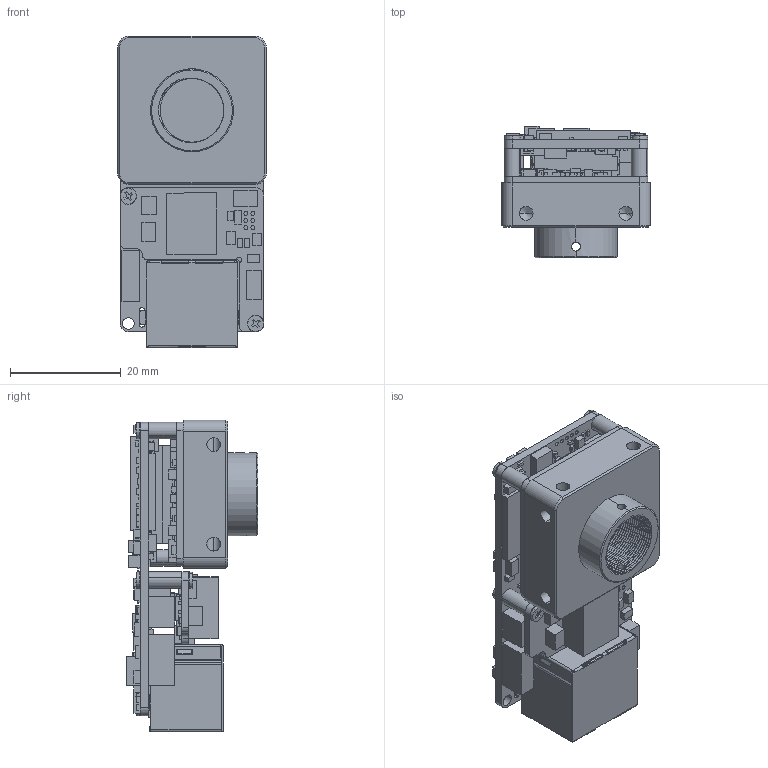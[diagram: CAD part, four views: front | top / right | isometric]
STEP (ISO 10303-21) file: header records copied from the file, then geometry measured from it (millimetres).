
FILE_DESCRIPTION (( 'STEP AP203' ), '1' );
FILE_NAME ('HS-P-M12.STEP', '2023-06-17T09:21:33', ( '' ), ( '' ), 'SwSTEP 2.0', 'SolidWorks 2022', '' );
FILE_SCHEMA (( 'CONFIG_CONTROL_DESIGN' ));
Length unit declared in the file: millimetre
Products named in the file (8): PS178-003; S180001-009; GB_CROSS_SCREWS_TYPE135 M2X5-N_GB_CROSS_SCREWS_TYPE135 M2X5-N; S210011-001-A0; HS-P-M12; MG53-002-HS; S180001-008; MPT-003
Assembly tree (16 placements, depth 2):
  HS-P-M12
    S210011-001-A0
    PS178-003
    MPT-003
    MG53-002-HS
    S180001-008  x3
    S180001-009  x2
    GB_CROSS_SCREWS_TYPE135 M2X5-N_GB_CROSS_SCREWS_TYPE135 M2X5-N  x7
Bounding box: 26.8 x 23.84 x 56.3 mm (x, y, z)
Volume: 12652.2 mm3; surface area: 20895.9 mm2
Topology: 363 solids, 363 shells, 3478 faces, 8115 edges, 5343 vertices
Faces by surface type: plane 2935, cylinder 445, cone 69, torus 14, bspline 13, sphere 2
Entity records: 100013 total; most frequent: CARTESIAN_POINT 25206, ORIENTED_EDGE 15214, DIRECTION 14017, EDGE_CURVE 7607, VECTOR 6637, LINE 6637, VERTEX_POINT 5029, AXIS2_PLACEMENT_3D 3690
